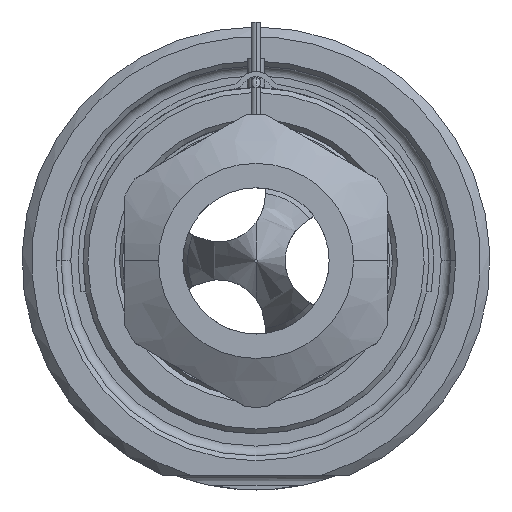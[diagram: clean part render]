
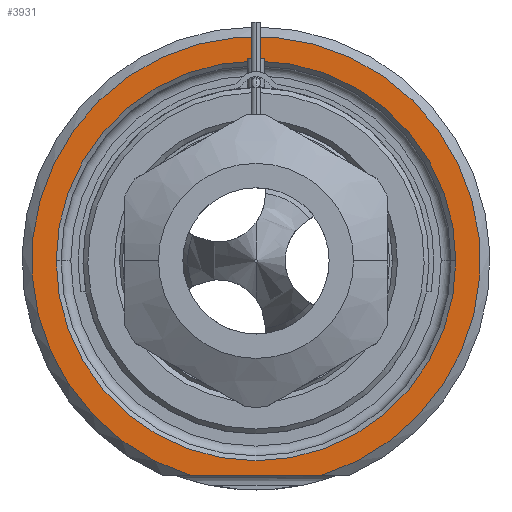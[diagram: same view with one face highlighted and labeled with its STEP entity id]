
A CAD part, front view. The second image highlights one B-rep face of the part: STEP entity #3931.
In plain terms, the highlighted planar face has unit normal (0, -1, 0).
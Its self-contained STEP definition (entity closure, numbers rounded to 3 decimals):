
#1=DIRECTION('',(1.,0.,0.));
#2=VECTOR('',#1,13.416);
#3=CARTESIAN_POINT('',(-6.708,0.,-22.));
#4=LINE('',#3,#2);
#5=CARTESIAN_POINT('',(0.,0.,0.));
#6=DIRECTION('',(0.,1.,0.));
#7=DIRECTION('',(-1.,0.,0.));
#8=AXIS2_PLACEMENT_3D('',#5,#6,#7);
#10=CARTESIAN_POINT('',(0.,0.,0.));
#11=DIRECTION('',(0.,1.,0.));
#12=DIRECTION('',(1.,0.,0.));
#13=AXIS2_PLACEMENT_3D('',#10,#11,#12);
#121=CARTESIAN_POINT('',(0.,0.,0.));
#122=DIRECTION('',(0.,-1.,0.));
#123=DIRECTION('',(0.292,0.,-0.957));
#124=AXIS2_PLACEMENT_3D('',#121,#122,#123);
#3316=CARTESIAN_POINT('',(-20.5,0.,0.));
#3317=CARTESIAN_POINT('',(20.5,0.,0.));
#3318=VERTEX_POINT('',#3316);
#3319=VERTEX_POINT('',#3317);
#3356=CARTESIAN_POINT('',(-6.708,0.,-22.));
#3357=CARTESIAN_POINT('',(6.708,0.,-22.));
#3358=VERTEX_POINT('',#3356);
#3359=VERTEX_POINT('',#3357);
#3914=CARTESIAN_POINT('',(0.,0.,0.));
#3915=DIRECTION('',(0.,-1.,0.));
#3916=DIRECTION('',(1.,0.,0.));
#3917=AXIS2_PLACEMENT_3D('',#3914,#3915,#3916);
#3918=PLANE('',#3917);
#3920=ORIENTED_EDGE('',*,*,#3919,.F.);
#3922=ORIENTED_EDGE('',*,*,#3921,.F.);
#3923=EDGE_LOOP('',(#3920,#3922));
#3924=FACE_OUTER_BOUND('',#3923,.F.);
#3926=ORIENTED_EDGE('',*,*,#3925,.F.);
#3928=ORIENTED_EDGE('',*,*,#3927,.F.);
#3929=EDGE_LOOP('',(#3926,#3928));
#3930=FACE_BOUND('',#3929,.F.);
#3931=ADVANCED_FACE('',(#3924,#3930),#3918,.T.);
#9=CIRCLE('',#8,20.5);
#14=CIRCLE('',#13,20.5);
#125=CIRCLE('',#124,23.);
#3919=EDGE_CURVE('',#3358,#3359,#4,.T.);
#3921=EDGE_CURVE('',#3359,#3358,#125,.T.);
#3925=EDGE_CURVE('',#3318,#3319,#9,.T.);
#3927=EDGE_CURVE('',#3319,#3318,#14,.T.);
